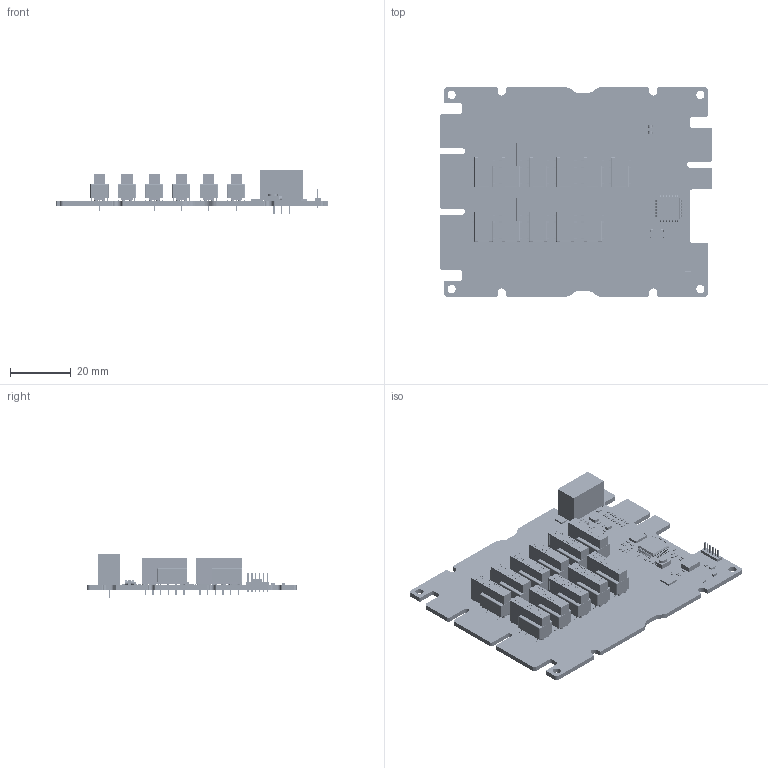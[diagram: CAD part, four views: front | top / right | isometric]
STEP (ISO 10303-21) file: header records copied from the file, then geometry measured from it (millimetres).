
FILE_DESCRIPTION(('Open CASCADE Model'),'2;1');
FILE_NAME('Open CASCADE Shape Model','2026-08-19T11:50:29',('Author'),( 'Open CASCADE'),'Open CASCADE STEP processor 7.5','Open CASCADE 7.5' ,'Unknown');
FILE_SCHEMA(('AUTOMOTIVE_DESIGN { 1 0 10303 214 1 1 1 1 }'));
Length unit declared in the file: millimetre
Products named in the file (241): Open CASCADE STEP translator 7.5 854; Open CASCADE STEP translator 7.5 855; Open CASCADE STEP translator 7.5 856; Open CASCADE STEP translator 7.5 857; Open CASCADE STEP translator 7.5 858; Open CASCADE STEP translator 7.5 859; Open CASCADE STEP translator 7.5 860; Open CASCADE STEP translator 7.5 861; Open CASCADE STEP translator 7.5 862; Open CASCADE STEP translator 7.5 863; Open CASCADE STEP translator 7.5 864; Open CASCADE STEP translator 7.5 865; Open CASCADE STEP translator 7.5 866; Open CASCADE STEP translator 7.5 867; Open CASCADE STEP translator 7.5 868; Open CASCADE STEP translator 7.5 869; Open CASCADE STEP translator 7.5 870; Open CASCADE STEP translator 7.5 871; Open CASCADE STEP translator 7.5 872; Open CASCADE STEP translator 7.5 873; Open CASCADE STEP translator 7.5 874; Open CASCADE STEP translator 7.5 875; Open CASCADE STEP translator 7.5 876; Open CASCADE STEP translator 7.5 877; Open CASCADE STEP translator 7.5 878; Open CASCADE STEP translator 7.5 879; Open CASCADE STEP translator 7.5 880; Open CASCADE STEP translator 7.5 881; Open CASCADE STEP translator 7.5 882; Open CASCADE STEP translator 7.5 883; Open CASCADE STEP translator 7.5 884; Open CASCADE STEP translator 7.5 885; Open CASCADE STEP translator 7.5 886; Open CASCADE STEP translator 7.5 887; Open CASCADE STEP translator 7.5 888; Open CASCADE STEP translator 7.5 889; Open CASCADE STEP translator 7.5 890; Open CASCADE STEP translator 7.5 891; Open CASCADE STEP translator 7.5 892; Open CASCADE STEP translator 7.5 893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
Bounding box: 90 x 69 x 14.2 mm (x, y, z)
Volume: 18660.6 mm3; surface area: 24165.8 mm2
Topology: 550 solids, 550 shells, 16717 faces, 42760 edges, 28421 vertices
Faces by surface type: plane 12353, bspline 3513, cylinder 782, sphere 57, torus 8, cone 4
Full cylindrical faces by diameter (mm): 0.08 x1, 0.289 x1, 0.3 x6, 0.5 x3, 0.6 x6, 0.9 x66, 0.94 x3, 1.1 x11, 1.4 x1, 1.6 x2, 2.7 x4
Entity records: 686244 total; most frequent: CARTESIAN_POINT 291614, ORIENTED_EDGE 85520, DIRECTION 63698, EDGE_CURVE 42760, LINE 34144, VECTOR 34144, VERTEX_POINT 28421, FACE_BOUND 18197
